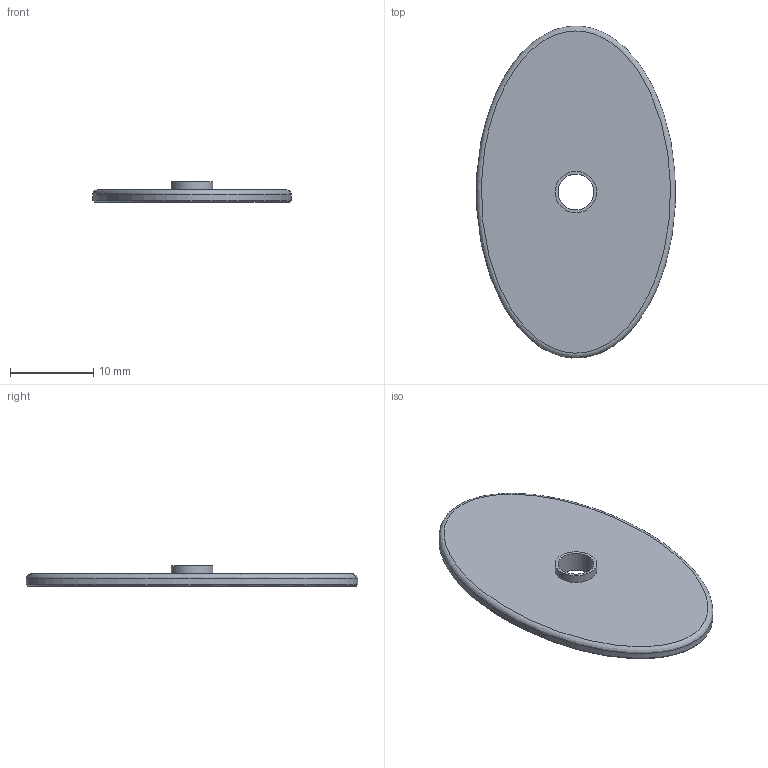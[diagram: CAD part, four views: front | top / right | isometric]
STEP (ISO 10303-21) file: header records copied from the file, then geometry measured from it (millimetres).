
FILE_DESCRIPTION(('Open CASCADE Model'),'2;1');
FILE_NAME('W-OVAL-WO40','2026-10-19T21:23:52',('Author'),('Open CASCADE' ),'Open CASCADE STEP processor 8.0','build123d','Unknown');
FILE_SCHEMA(('AUTOMOTIVE_DESIGN { 1 0 10303 214 1 1 1 1 }'));
Length unit declared in the file: millimetre
Products named in the file (2): W-OVAL-WO40; brass_WO40__w
Assembly tree (1 placements, depth 2):
  W-OVAL-WO40
    brass_WO40__w
Bounding box: 23.91 x 39.98 x 2.49 mm (x, y, z)
Volume: 1099.4 mm3; surface area: 1652.7 mm2
Topology: 1 solids, 1 shells, 12 faces, 19 edges, 12 vertices
Faces by surface type: plane 5, cylinder 4, bspline 2, extrusion 1
Full cylindrical faces by diameter (mm): 2 x2, 4.3 x1, 5 x1
Entity records: 1038 total; most frequent: CARTESIAN_POINT 602, DIRECTION 76, ORIENTED_EDGE 38, PCURVE 38, DEFINITIONAL_REPRESENTATION 38, VECTOR 28, LINE 27, AXIS2_PLACEMENT_3D 20
